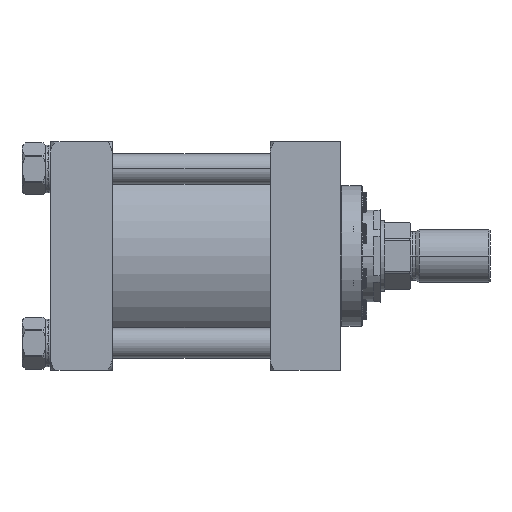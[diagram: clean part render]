
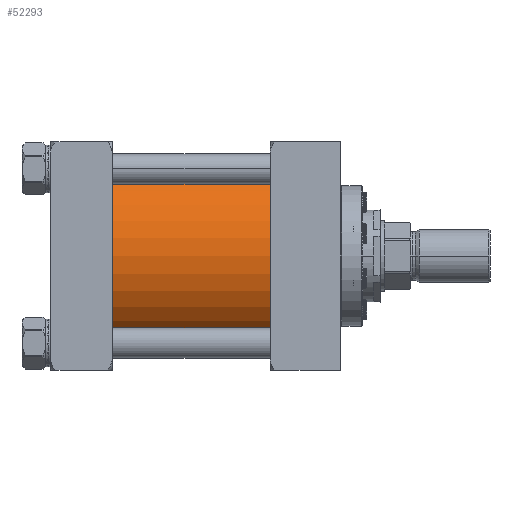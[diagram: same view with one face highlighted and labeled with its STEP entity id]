
A CAD part, front view. The second image highlights one B-rep face of the part: STEP entity #52293.
In plain terms, the highlighted cylindrical face has radius 73.025 mm (diameter 146.05 mm), a partial arc.
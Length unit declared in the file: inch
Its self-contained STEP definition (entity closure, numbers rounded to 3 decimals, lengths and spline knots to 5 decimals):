
#489 = EDGE_LOOP ( 'NONE', ( #65831, #37219, #30678, #18034 ) ) ;
#1021 = DIRECTION ( 'NONE',  ( 1., 0., 0. ) ) ;
#5233 = CIRCLE ( 'NONE', #58399, 2.875 ) ;
#7708 = CARTESIAN_POINT ( 'NONE',  ( -3.75, 0., 0. ) ) ;
#13180 = CARTESIAN_POINT ( 'NONE',  ( -3.75, 0., 2.875 ) ) ;
#14132 = VERTEX_POINT ( 'NONE', #60002 ) ;
#18034 = ORIENTED_EDGE ( 'NONE', *, *, #19850, .F. ) ;
#19850 = EDGE_CURVE ( 'NONE', #42336, #14132, #5233, .T. ) ;
#25320 = DIRECTION ( 'NONE',  ( 1., 0., 0. ) ) ;
#28631 = CARTESIAN_POINT ( 'NONE',  ( -8.75, 0., -2.875 ) ) ;
#30678 = ORIENTED_EDGE ( 'NONE', *, *, #87515, .T. ) ;
#33683 = VECTOR ( 'NONE', #79778, 39.37008 ) ;
#34921 = CYLINDRICAL_SURFACE ( 'NONE', #56999, 2.875 ) ;
#35869 = DIRECTION ( 'NONE',  ( 1., 0., 0. ) ) ;
#36340 = CARTESIAN_POINT ( 'NONE',  ( -8.75, 0., 2.875 ) ) ;
#37219 = ORIENTED_EDGE ( 'NONE', *, *, #53457, .T. ) ;
#39616 = EDGE_CURVE ( 'NONE', #77001, #42336, #65381, .T. ) ;
#41648 = CARTESIAN_POINT ( 'NONE',  ( -8.75, 0., 0. ) ) ;
#42336 = VERTEX_POINT ( 'NONE', #13180 ) ;
#43792 = CARTESIAN_POINT ( 'NONE',  ( -8.75, 0., -2.875 ) ) ;
#52293 = ADVANCED_FACE ( 'NONE', ( #70712 ), #34921, .T. ) ;
#53457 = EDGE_CURVE ( 'NONE', #77001, #87522, #61643, .T. ) ;
#55540 = AXIS2_PLACEMENT_3D ( 'NONE', #68089, #25320, #63752 ) ;
#56999 = AXIS2_PLACEMENT_3D ( 'NONE', #41648, #35869, #70210 ) ;
#58399 = AXIS2_PLACEMENT_3D ( 'NONE', #7708, #1021, #65252 ) ;
#58581 = LINE ( 'NONE', #43792, #69088 ) ;
#60002 = CARTESIAN_POINT ( 'NONE',  ( -3.75, 0., -2.875 ) ) ;
#61643 = CIRCLE ( 'NONE', #55540, 2.875 ) ;
#63752 = DIRECTION ( 'NONE',  ( 0., 1., 0. ) ) ;
#65252 = DIRECTION ( 'NONE',  ( 0., 1., 0. ) ) ;
#65381 = LINE ( 'NONE', #36340, #33683 ) ;
#65831 = ORIENTED_EDGE ( 'NONE', *, *, #39616, .F. ) ;
#68089 = CARTESIAN_POINT ( 'NONE',  ( -8.75, 0., 0. ) ) ;
#69088 = VECTOR ( 'NONE', #72903, 39.37008 ) ;
#70210 = DIRECTION ( 'NONE',  ( 0., 0., -1. ) ) ;
#70712 = FACE_OUTER_BOUND ( 'NONE', #489, .T. ) ;
#72903 = DIRECTION ( 'NONE',  ( 1., 0., 0. ) ) ;
#77001 = VERTEX_POINT ( 'NONE', #86733 ) ;
#79778 = DIRECTION ( 'NONE',  ( 1., 0., 0. ) ) ;
#86733 = CARTESIAN_POINT ( 'NONE',  ( -8.75, 0., 2.875 ) ) ;
#87515 = EDGE_CURVE ( 'NONE', #87522, #14132, #58581, .T. ) ;
#87522 = VERTEX_POINT ( 'NONE', #28631 ) ;
